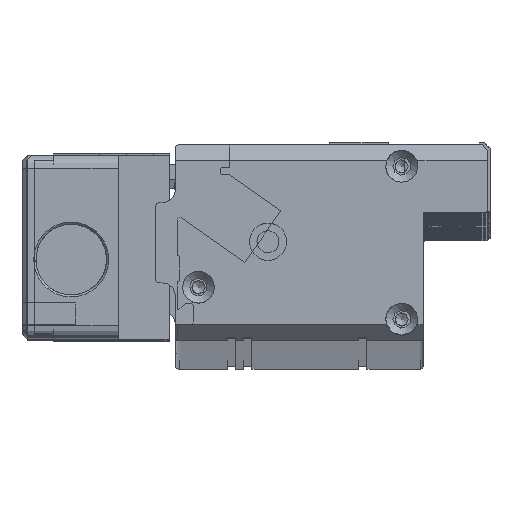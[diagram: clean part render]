
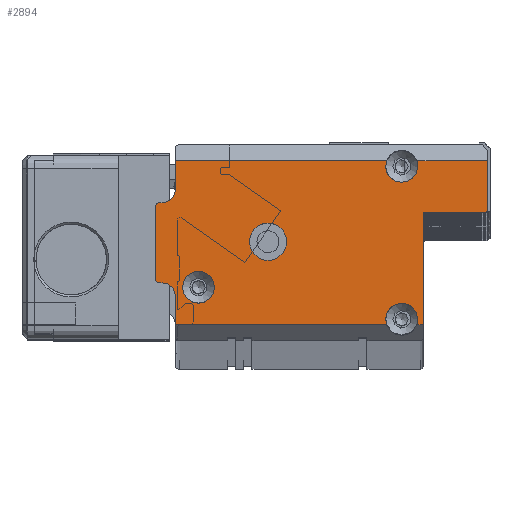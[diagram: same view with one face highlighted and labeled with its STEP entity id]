
A CAD part, top view. The second image highlights one B-rep face of the part: STEP entity #2894.
In plain terms, the highlighted planar face has unit normal (0, 0, 1).
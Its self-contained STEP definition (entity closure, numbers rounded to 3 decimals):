
#1058=FACE_BOUND('',#6950,.T.);
#1059=FACE_BOUND('',#6951,.T.);
#1060=FACE_BOUND('',#6952,.T.);
#1424=CIRCLE('',#31707,3.);
#1425=CIRCLE('',#31708,3.);
#1426=CIRCLE('',#31709,0.5);
#1427=CIRCLE('',#31710,0.5);
#1428=CIRCLE('',#31711,3.);
#1429=CIRCLE('',#31712,2.5);
#1430=CIRCLE('',#31713,0.5);
#1431=CIRCLE('',#31714,0.5);
#1432=CIRCLE('',#31715,2.5);
#1433=CIRCLE('',#31716,3.5);
#2894=ADVANCED_FACE('',(#1058,#1059,#1060),#4405,.T.);
#4405=PLANE('',#31717);
#6950=EDGE_LOOP('',(#15343));
#6951=EDGE_LOOP('',(#15344,#15345,#15346,#15347,#15348,#15349,#15350,#15351,
#15352,#15353,#15354,#15355,#15356,#15357,#15358,#15359,#15360,#15361,#15362,
#15363));
#6952=EDGE_LOOP('',(#15364));
#8826=LINE('',#44775,#11806);
#8827=LINE('',#44777,#11807);
#8828=LINE('',#44781,#11808);
#8829=LINE('',#44785,#11809);
#8830=LINE('',#44787,#11810);
#8831=LINE('',#44791,#11811);
#8832=LINE('',#44793,#11812);
#8833=LINE('',#44797,#11813);
#8834=LINE('',#44801,#11814);
#8835=LINE('',#44805,#11815);
#8836=LINE('',#44809,#11816);
#8837=LINE('',#44811,#11817);
#11806=VECTOR('',#35332,1.);
#11807=VECTOR('',#35333,1.);
#11808=VECTOR('',#35336,1.);
#11809=VECTOR('',#35339,1.);
#11810=VECTOR('',#35340,1.);
#11811=VECTOR('',#35343,1.);
#11812=VECTOR('',#35344,1.);
#11813=VECTOR('',#35347,1.);
#11814=VECTOR('',#35350,1.);
#11815=VECTOR('',#35353,1.);
#11816=VECTOR('',#35356,1.);
#11817=VECTOR('',#35357,1.);
#15343=ORIENTED_EDGE('',*,*,#27251,.T.);
#15344=ORIENTED_EDGE('',*,*,#27252,.T.);
#15345=ORIENTED_EDGE('',*,*,#27253,.T.);
#15346=ORIENTED_EDGE('',*,*,#27254,.T.);
#15347=ORIENTED_EDGE('',*,*,#27255,.T.);
#15348=ORIENTED_EDGE('',*,*,#27256,.T.);
#15349=ORIENTED_EDGE('',*,*,#27257,.T.);
#15350=ORIENTED_EDGE('',*,*,#27258,.T.);
#15351=ORIENTED_EDGE('',*,*,#27259,.T.);
#15352=ORIENTED_EDGE('',*,*,#27260,.T.);
#15353=ORIENTED_EDGE('',*,*,#27261,.T.);
#15354=ORIENTED_EDGE('',*,*,#27262,.T.);
#15355=ORIENTED_EDGE('',*,*,#27263,.T.);
#15356=ORIENTED_EDGE('',*,*,#27264,.T.);
#15357=ORIENTED_EDGE('',*,*,#27265,.T.);
#15358=ORIENTED_EDGE('',*,*,#27266,.T.);
#15359=ORIENTED_EDGE('',*,*,#27267,.T.);
#15360=ORIENTED_EDGE('',*,*,#27268,.T.);
#15361=ORIENTED_EDGE('',*,*,#27269,.T.);
#15362=ORIENTED_EDGE('',*,*,#27270,.T.);
#15363=ORIENTED_EDGE('',*,*,#27271,.T.);
#15364=ORIENTED_EDGE('',*,*,#27272,.T.);
#23995=VERTEX_POINT('',#44771);
#23996=VERTEX_POINT('',#44773);
#23997=VERTEX_POINT('',#44774);
#23998=VERTEX_POINT('',#44776);
#23999=VERTEX_POINT('',#44778);
#24000=VERTEX_POINT('',#44780);
#24001=VERTEX_POINT('',#44782);
#24002=VERTEX_POINT('',#44784);
#24003=VERTEX_POINT('',#44786);
#24004=VERTEX_POINT('',#44788);
#24005=VERTEX_POINT('',#44790);
#24006=VERTEX_POINT('',#44792);
#24007=VERTEX_POINT('',#44794);
#24008=VERTEX_POINT('',#44796);
#24009=VERTEX_POINT('',#44798);
#24010=VERTEX_POINT('',#44800);
#24011=VERTEX_POINT('',#44802);
#24012=VERTEX_POINT('',#44804);
#24013=VERTEX_POINT('',#44806);
#24014=VERTEX_POINT('',#44808);
#24015=VERTEX_POINT('',#44810);
#24016=VERTEX_POINT('',#44813);
#27251=EDGE_CURVE('',#23995,#23995,#1424,.T.);
#27252=EDGE_CURVE('',#23996,#23997,#1425,.T.);
#27253=EDGE_CURVE('',#23997,#23998,#8826,.T.);
#27254=EDGE_CURVE('',#23998,#23999,#8827,.T.);
#27255=EDGE_CURVE('',#23999,#24000,#1426,.T.);
#27256=EDGE_CURVE('',#24000,#24001,#8828,.T.);
#27257=EDGE_CURVE('',#24001,#24002,#1427,.T.);
#27258=EDGE_CURVE('',#24002,#24003,#8829,.T.);
#27259=EDGE_CURVE('',#24003,#24004,#8830,.T.);
#27260=EDGE_CURVE('',#24004,#24005,#1428,.T.);
#27261=EDGE_CURVE('',#24005,#24006,#8831,.T.);
#27262=EDGE_CURVE('',#24006,#24007,#8832,.T.);
#27263=EDGE_CURVE('',#24007,#24008,#1429,.T.);
#27264=EDGE_CURVE('',#24008,#24009,#8833,.T.);
#27265=EDGE_CURVE('',#24009,#24010,#1430,.T.);
#27266=EDGE_CURVE('',#24010,#24011,#8834,.T.);
#27267=EDGE_CURVE('',#24011,#24012,#1431,.T.);
#27268=EDGE_CURVE('',#24012,#24013,#8835,.T.);
#27269=EDGE_CURVE('',#24013,#24014,#1432,.T.);
#27270=EDGE_CURVE('',#24014,#24015,#8836,.T.);
#27271=EDGE_CURVE('',#24015,#23996,#8837,.T.);
#27272=EDGE_CURVE('',#24016,#24016,#1433,.T.);
#31707=AXIS2_PLACEMENT_3D('',#44770,#35328,#35329);
#31708=AXIS2_PLACEMENT_3D('',#44772,#35330,#35331);
#31709=AXIS2_PLACEMENT_3D('',#44779,#35334,#35335);
#31710=AXIS2_PLACEMENT_3D('',#44783,#35337,#35338);
#31711=AXIS2_PLACEMENT_3D('',#44789,#35341,#35342);
#31712=AXIS2_PLACEMENT_3D('',#44795,#35345,#35346);
#31713=AXIS2_PLACEMENT_3D('',#44799,#35348,#35349);
#31714=AXIS2_PLACEMENT_3D('',#44803,#35351,#35352);
#31715=AXIS2_PLACEMENT_3D('',#44807,#35354,#35355);
#31716=AXIS2_PLACEMENT_3D('',#44812,#35358,#35359);
#31717=AXIS2_PLACEMENT_3D('',#44814,#35360,#35361);
#35328=DIRECTION('',(0.,0.,-1.));
#35329=DIRECTION('',(-1.,0.,0.));
#35330=DIRECTION('',(0.,0.,-1.));
#35331=DIRECTION('',(-1.,0.,0.));
#35332=DIRECTION('',(1.,0.,0.));
#35333=DIRECTION('',(0.,1.,0.));
#35334=DIRECTION('',(0.,0.,-1.));
#35335=DIRECTION('',(1.,0.,0.));
#35336=DIRECTION('',(1.,0.,0.));
#35337=DIRECTION('',(0.,0.,1.));
#35338=DIRECTION('',(1.,0.,0.));
#35339=DIRECTION('',(0.,1.,0.));
#35340=DIRECTION('',(-1.,0.,0.));
#35341=DIRECTION('',(0.,0.,-1.));
#35342=DIRECTION('',(-1.,0.,0.));
#35343=DIRECTION('',(-1.,0.,0.));
#35344=DIRECTION('',(0.,-1.,0.));
#35345=DIRECTION('',(0.,0.,-1.));
#35346=DIRECTION('',(1.,0.,0.));
#35347=DIRECTION('',(-1.,0.,0.));
#35348=DIRECTION('',(0.,0.,1.));
#35349=DIRECTION('',(1.,0.,0.));
#35350=DIRECTION('',(0.,-1.,0.));
#35351=DIRECTION('',(0.,0.,1.));
#35352=DIRECTION('',(1.,0.,0.));
#35353=DIRECTION('',(1.,0.,0.));
#35354=DIRECTION('',(0.,0.,-1.));
#35355=DIRECTION('',(1.,0.,0.));
#35356=DIRECTION('',(0.,-1.,0.));
#35357=DIRECTION('',(1.,0.,0.));
#35358=DIRECTION('',(0.,0.,-1.));
#35359=DIRECTION('',(-1.,0.,0.));
#35360=DIRECTION('',(0.,0.,1.));
#35361=DIRECTION('',(-1.,0.,0.));
#44770=CARTESIAN_POINT('',(8.,-26.6,8.));
#44771=CARTESIAN_POINT('',(5.,-26.6,8.));
#44772=CARTESIAN_POINT('',(46.,-32.6,8.));
#44773=CARTESIAN_POINT('',(43.172,-33.6,8.));
#44774=CARTESIAN_POINT('',(48.828,-33.6,8.));
#44775=CARTESIAN_POINT('',(50.,-33.6,8.));
#44776=CARTESIAN_POINT('',(50.,-33.6,8.));
#44777=CARTESIAN_POINT('',(50.,-36.6,8.));
#44778=CARTESIAN_POINT('',(50.,-13.1,8.));
#44779=CARTESIAN_POINT('',(50.5,-13.1,8.));
#44780=CARTESIAN_POINT('',(50.5,-12.6,8.));
#44781=CARTESIAN_POINT('',(50.,-12.6,8.));
#44782=CARTESIAN_POINT('',(61.6,-12.6,8.));
#44783=CARTESIAN_POINT('',(61.6,-12.1,8.));
#44784=CARTESIAN_POINT('',(62.1,-12.1,8.));
#44785=CARTESIAN_POINT('',(62.1,-12.6,8.));
#44786=CARTESIAN_POINT('',(62.1,-3.,8.));
#44787=CARTESIAN_POINT('',(3.7,-3.,8.));
#44788=CARTESIAN_POINT('',(48.828,-3.,8.));
#44789=CARTESIAN_POINT('',(46.,-4.,8.));
#44790=CARTESIAN_POINT('',(43.172,-3.,8.));
#44791=CARTESIAN_POINT('',(3.7,-3.,8.));
#44792=CARTESIAN_POINT('',(3.7,-3.,8.));
#44793=CARTESIAN_POINT('',(3.7,0.,8.));
#44794=CARTESIAN_POINT('',(3.7,-8.3,8.));
#44795=CARTESIAN_POINT('',(1.2,-8.3,8.));
#44796=CARTESIAN_POINT('',(1.2,-10.8,8.));
#44797=CARTESIAN_POINT('',(3.7,-10.8,8.));
#44798=CARTESIAN_POINT('',(0.5,-10.8,8.));
#44799=CARTESIAN_POINT('',(0.5,-11.3,8.));
#44800=CARTESIAN_POINT('',(0.,-11.3,8.));
#44801=CARTESIAN_POINT('',(0.,-10.8,8.));
#44802=CARTESIAN_POINT('',(0.,-25.3,8.));
#44803=CARTESIAN_POINT('',(0.5,-25.3,8.));
#44804=CARTESIAN_POINT('',(0.5,-25.8,8.));
#44805=CARTESIAN_POINT('',(0.,-25.8,8.));
#44806=CARTESIAN_POINT('',(1.2,-25.8,8.));
#44807=CARTESIAN_POINT('',(1.2,-28.3,8.));
#44808=CARTESIAN_POINT('',(3.7,-28.3,8.));
#44809=CARTESIAN_POINT('',(3.7,-25.8,8.));
#44810=CARTESIAN_POINT('',(3.7,-33.6,8.));
#44811=CARTESIAN_POINT('',(50.,-33.6,8.));
#44812=CARTESIAN_POINT('',(21.,-18.1,8.));
#44813=CARTESIAN_POINT('',(17.5,-18.1,8.));
#44814=CARTESIAN_POINT('',(0.,0.,8.));
